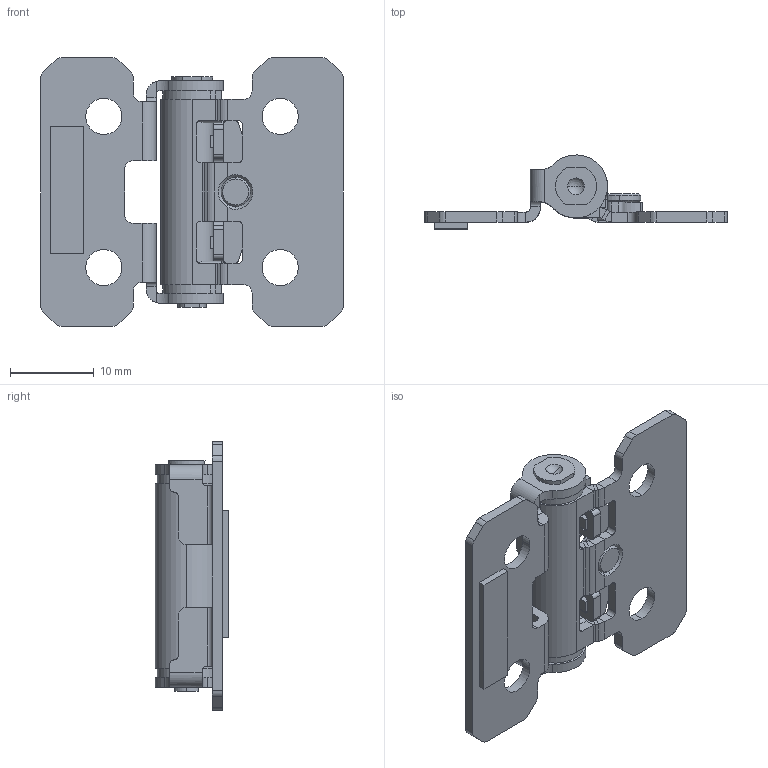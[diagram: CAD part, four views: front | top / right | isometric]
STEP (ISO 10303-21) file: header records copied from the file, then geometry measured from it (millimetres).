
FILE_DESCRIPTION (( 'STEP AP214' ), '1' );
FILE_NAME ('CL-102-1.STEP', '2022-04-30T03:09:34', ( 'Owner' ), ( '' ), 'SwSTEP 2.0', 'SolidWorks 2019', '' );
FILE_SCHEMA (( 'AUTOMOTIVE_DESIGN' ));
Length unit declared in the file: inch
Products named in the file (1): CL-102-1
Bounding box: 36 x 8.8 x 32 mm (x, y, z)
Volume: 2216.4 mm3; surface area: 4432.1 mm2
Topology: 7 solids, 7 shells, 371 faces, 1003 edges, 644 vertices
Faces by surface type: plane 188, cylinder 164, cone 13, sphere 4, bspline 2
Entity records: 16759 total; most frequent: CARTESIAN_POINT 2363, DIRECTION 2031, ORIENTED_EDGE 1994, EDGE_CURVE 997, AXIS2_PLACEMENT_3D 714, VERTEX_POINT 642, VECTOR 603, LINE 603
